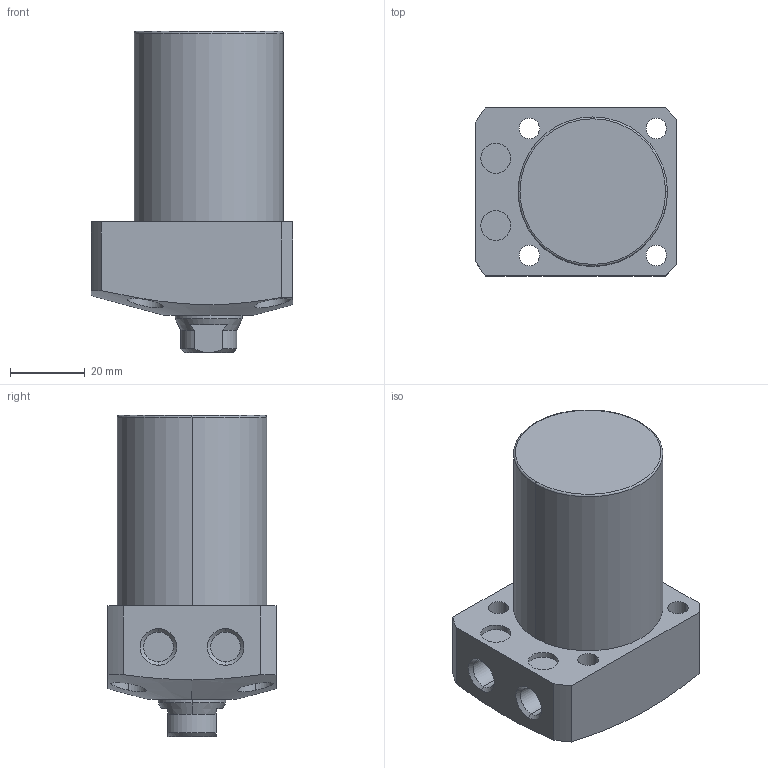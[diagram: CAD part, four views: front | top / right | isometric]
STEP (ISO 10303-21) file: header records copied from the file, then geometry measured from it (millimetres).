
FILE_DESCRIPTION (( 'STEP AP203' ), '1' );
FILE_NAME ('CLL-0400-CA-40.STEP', '2017-05-09T05:32:44', ( '' ), ( '' ), 'SwSTEP 2.0', 'SolidWorks 2015', '' );
FILE_SCHEMA (( 'CONFIG_CONTROL_DESIGN' ));
Length unit declared in the file: millimetre
Products named in the file (1): CLL-0400-CA-40
Bounding box: 54 x 45 x 86 mm (x, y, z)
Volume: 115534.6 mm3; surface area: 18308.1 mm2
Topology: 1 solids, 1 shells, 74 faces, 170 edges, 107 vertices
Faces by surface type: cylinder 35, plane 22, cone 15, torus 2
Entity records: 2512 total; most frequent: CARTESIAN_POINT 725, DIRECTION 374, ORIENTED_EDGE 336, EDGE_CURVE 168, AXIS2_PLACEMENT_3D 155, VERTEX_POINT 107, EDGE_LOOP 93, CIRCLE 80
